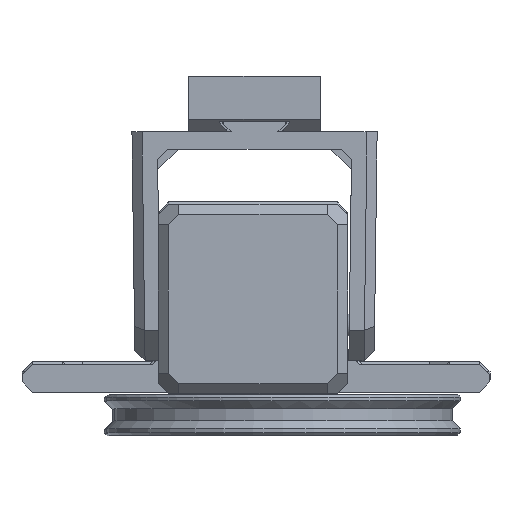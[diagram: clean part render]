
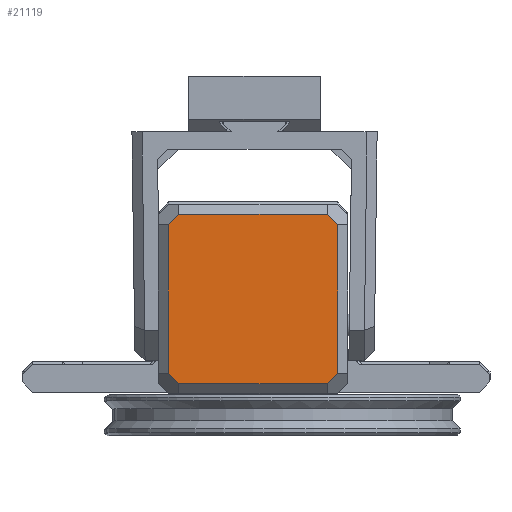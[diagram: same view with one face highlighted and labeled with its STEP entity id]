
A CAD part, left-side view. The second image highlights one B-rep face of the part: STEP entity #21119.
In plain terms, the highlighted planar face has unit normal (-1, 0, 0) as drawn and (0, 1, 0) by its records, which use the part's own axes.
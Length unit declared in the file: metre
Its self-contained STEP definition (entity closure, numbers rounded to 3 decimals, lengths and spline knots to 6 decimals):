
#513=PLANE('',#22484);
#2632=ORIENTED_EDGE('',*,*,#8720,.F.);
#2633=ORIENTED_EDGE('',*,*,#8721,.T.);
#2634=ORIENTED_EDGE('',*,*,#8722,.F.);
#2635=ORIENTED_EDGE('',*,*,#8723,.T.);
#2636=ORIENTED_EDGE('',*,*,#8724,.F.);
#2637=ORIENTED_EDGE('',*,*,#8725,.T.);
#2638=ORIENTED_EDGE('',*,*,#8726,.F.);
#2639=ORIENTED_EDGE('',*,*,#8727,.T.);
#8720=EDGE_CURVE('',#11780,#11781,#13854,.T.);
#8721=EDGE_CURVE('',#11780,#11782,#13855,.T.);
#8722=EDGE_CURVE('',#11783,#11782,#13856,.T.);
#8723=EDGE_CURVE('',#11783,#11784,#13857,.T.);
#8724=EDGE_CURVE('',#11785,#11784,#13858,.T.);
#8725=EDGE_CURVE('',#11785,#11786,#13859,.T.);
#8726=EDGE_CURVE('',#11787,#11786,#13860,.T.);
#8727=EDGE_CURVE('',#11787,#11781,#13861,.T.);
#11780=VERTEX_POINT('',#30663);
#11781=VERTEX_POINT('',#30664);
#11782=VERTEX_POINT('',#30666);
#11783=VERTEX_POINT('',#30668);
#11784=VERTEX_POINT('',#30670);
#11785=VERTEX_POINT('',#30672);
#11786=VERTEX_POINT('',#30674);
#11787=VERTEX_POINT('',#30676);
#13854=LINE('',#30662,#16207);
#13855=LINE('',#30665,#16208);
#13856=LINE('',#30667,#16209);
#13857=LINE('',#30669,#16210);
#13858=LINE('',#30671,#16211);
#13859=LINE('',#30673,#16212);
#13860=LINE('',#30675,#16213);
#13861=LINE('',#30677,#16214);
#16207=VECTOR('',#24625,1.);
#16208=VECTOR('',#24626,1.);
#16209=VECTOR('',#24627,1.);
#16210=VECTOR('',#24628,1.);
#16211=VECTOR('',#24629,1.);
#16212=VECTOR('',#24630,1.);
#16213=VECTOR('',#24631,1.);
#16214=VECTOR('',#24632,1.);
#18340=EDGE_LOOP('',(#2632,#2633,#2634,#2635,#2636,#2637,#2638,#2639));
#19695=FACE_BOUND('',#18340,.T.);
#21119=ADVANCED_FACE('',(#19695),#513,.F.);
#22484=AXIS2_PLACEMENT_3D('',#30661,#24623,#24624);
#24623=DIRECTION('',(0.,-1.,0.));
#24624=DIRECTION('',(1.,0.,0.));
#24625=DIRECTION('',(0.707,0.,-0.707));
#24626=DIRECTION('',(0.,0.,1.));
#24627=DIRECTION('',(-0.707,0.,-0.707));
#24628=DIRECTION('',(1.,0.,0.));
#24629=DIRECTION('',(-0.707,0.,0.707));
#24630=DIRECTION('',(0.,0.,-1.));
#24631=DIRECTION('',(0.707,0.,0.707));
#24632=DIRECTION('',(-1.,0.,0.));
#30661=CARTESIAN_POINT('',(0.,0.,0.));
#30662=CARTESIAN_POINT('',(-0.015711,0.,-0.015711));
#30663=CARTESIAN_POINT('',(-0.01675,0.,-0.014672));
#30664=CARTESIAN_POINT('',(-0.014672,0.,-0.01675));
#30665=CARTESIAN_POINT('',(-0.01675,0.,0.));
#30666=CARTESIAN_POINT('',(-0.01675,0.,0.014672));
#30667=CARTESIAN_POINT('',(-0.015711,0.,0.015711));
#30668=CARTESIAN_POINT('',(-0.014672,0.,0.01675));
#30669=CARTESIAN_POINT('',(0.,0.,0.01675));
#30670=CARTESIAN_POINT('',(0.014672,0.,0.01675));
#30671=CARTESIAN_POINT('',(0.015711,0.,0.015711));
#30672=CARTESIAN_POINT('',(0.01675,0.,0.014672));
#30673=CARTESIAN_POINT('',(0.01675,0.,-0.01875));
#30674=CARTESIAN_POINT('',(0.01675,0.,-0.014672));
#30675=CARTESIAN_POINT('',(0.015711,0.,-0.015711));
#30676=CARTESIAN_POINT('',(0.014672,0.,-0.01675));
#30677=CARTESIAN_POINT('',(-0.01875,0.,-0.01675));
